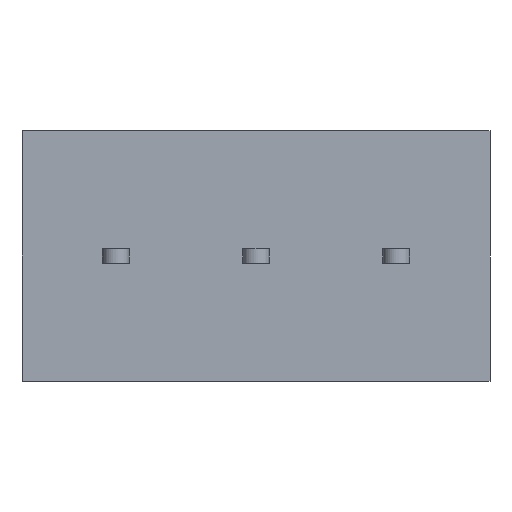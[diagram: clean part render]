
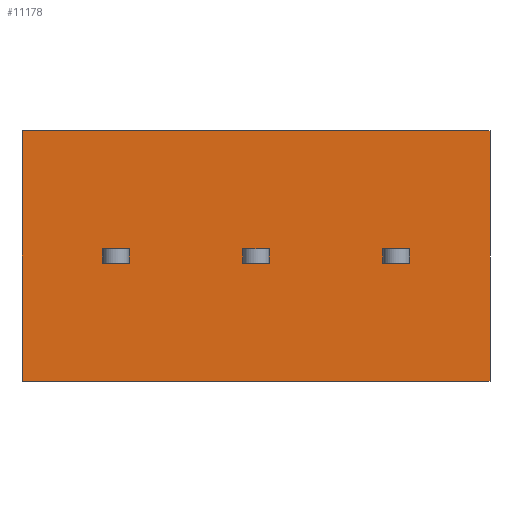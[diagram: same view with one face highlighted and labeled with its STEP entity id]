
A CAD part, front view. The second image highlights one B-rep face of the part: STEP entity #11178.
In plain terms, the highlighted planar face has unit normal (0, -1, 0).
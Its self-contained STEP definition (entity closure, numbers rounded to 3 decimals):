
#747=VERTEX_POINT('',#14812);
#748=VERTEX_POINT('',#14813);
#751=VERTEX_POINT('',#14821);
#779=VERTEX_POINT('',#14892);
#903=VERTEX_POINT('',#15305);
#904=VERTEX_POINT('',#15306);
#916=VERTEX_POINT('',#15334);
#917=VERTEX_POINT('',#15335);
#918=VERTEX_POINT('',#15337);
#919=VERTEX_POINT('',#15339);
#920=VERTEX_POINT('',#15342);
#921=VERTEX_POINT('',#15343);
#922=VERTEX_POINT('',#15345);
#923=VERTEX_POINT('',#15347);
#924=VERTEX_POINT('',#15350);
#925=VERTEX_POINT('',#15351);
#1906=VECTOR('',#12501,1.);
#1909=VECTOR('',#12507,1.);
#1935=VECTOR('',#12562,1.);
#1937=VECTOR('',#12565,1.);
#2055=VECTOR('',#12890,1.);
#2070=VECTOR('',#12906,1.);
#2071=VECTOR('',#12907,1.);
#2072=VECTOR('',#12908,1.);
#2073=VECTOR('',#12909,1.);
#2074=VECTOR('',#12910,1.);
#2075=VECTOR('',#12911,1.);
#2076=VECTOR('',#12912,1.);
#2077=VECTOR('',#12913,1.);
#2078=VECTOR('',#12914,1.);
#2079=VECTOR('',#12915,1.);
#2080=VECTOR('',#12916,1.);
#3180=LINE('',#14811,#1906);
#3183=LINE('',#14820,#1909);
#3209=LINE('',#14891,#1935);
#3211=LINE('',#14895,#1937);
#3329=LINE('',#15304,#2055);
#3344=LINE('',#15333,#2070);
#3345=LINE('',#15336,#2071);
#3346=LINE('',#15338,#2072);
#3347=LINE('',#15340,#2073);
#3348=LINE('',#15341,#2074);
#3349=LINE('',#15344,#2075);
#3350=LINE('',#15346,#2076);
#3351=LINE('',#15348,#2077);
#3352=LINE('',#15349,#2078);
#3353=LINE('',#15352,#2079);
#3354=LINE('',#15353,#2080);
#4454=EDGE_CURVE('',#747,#748,#3180,.T.);
#4458=EDGE_CURVE('',#748,#751,#3183,.T.);
#4493=EDGE_CURVE('',#779,#747,#3209,.T.);
#4495=EDGE_CURVE('',#751,#779,#3211,.T.);
#4679=EDGE_CURVE('',#903,#904,#3329,.T.);
#4694=EDGE_CURVE('',#916,#917,#3344,.T.);
#4695=EDGE_CURVE('',#917,#918,#3345,.T.);
#4696=EDGE_CURVE('',#918,#919,#3346,.T.);
#4697=EDGE_CURVE('',#919,#916,#3347,.T.);
#4698=EDGE_CURVE('',#920,#921,#3348,.T.);
#4699=EDGE_CURVE('',#922,#920,#3349,.T.);
#4700=EDGE_CURVE('',#923,#922,#3350,.T.);
#4701=EDGE_CURVE('',#921,#923,#3351,.T.);
#4702=EDGE_CURVE('',#924,#925,#3352,.T.);
#4703=EDGE_CURVE('',#925,#904,#3353,.T.);
#4704=EDGE_CURVE('',#924,#903,#3354,.T.);
#6609=ORIENTED_EDGE('',*,*,#4694,.T.);
#6610=ORIENTED_EDGE('',*,*,#4695,.T.);
#6611=ORIENTED_EDGE('',*,*,#4696,.T.);
#6612=ORIENTED_EDGE('',*,*,#4697,.T.);
#6613=ORIENTED_EDGE('',*,*,#4454,.T.);
#6614=ORIENTED_EDGE('',*,*,#4458,.T.);
#6615=ORIENTED_EDGE('',*,*,#4495,.T.);
#6616=ORIENTED_EDGE('',*,*,#4493,.T.);
#6617=ORIENTED_EDGE('',*,*,#4698,.F.);
#6618=ORIENTED_EDGE('',*,*,#4699,.F.);
#6619=ORIENTED_EDGE('',*,*,#4700,.F.);
#6620=ORIENTED_EDGE('',*,*,#4701,.F.);
#6621=ORIENTED_EDGE('',*,*,#4702,.T.);
#6622=ORIENTED_EDGE('',*,*,#4703,.T.);
#6623=ORIENTED_EDGE('',*,*,#4679,.F.);
#6624=ORIENTED_EDGE('',*,*,#4704,.F.);
#9734=EDGE_LOOP('',(#6609,#6610,#6611,#6612));
#9735=EDGE_LOOP('',(#6613,#6614,#6615,#6616));
#9736=EDGE_LOOP('',(#6617,#6618,#6619,#6620));
#9737=EDGE_LOOP('',(#6621,#6622,#6623,#6624));
#10460=FACE_BOUND('',#9734,.T.);
#10461=FACE_BOUND('',#9735,.T.);
#10462=FACE_BOUND('',#9736,.T.);
#10463=FACE_BOUND('',#9737,.T.);
#11178=ADVANCED_FACE('',(#10460,#10461,#10462,#10463),#19408,.T.);
#11907=AXIS2_PLACEMENT_3D('',#15332,#12905,$);
#12501=DIRECTION('',(1.,0.,0.));
#12507=DIRECTION('',(0.,0.,-1.));
#12562=DIRECTION('',(0.,0.,1.));
#12565=DIRECTION('',(-1.,0.,0.));
#12890=DIRECTION('',(1.,0.,0.));
#12905=DIRECTION('',(0.,-1.,0.));
#12906=DIRECTION('',(1.,0.,0.));
#12907=DIRECTION('',(0.,0.,-1.));
#12908=DIRECTION('',(-1.,0.,0.));
#12909=DIRECTION('',(0.,0.,1.));
#12910=DIRECTION('',(-1.,0.,0.));
#12911=DIRECTION('',(0.,0.,1.));
#12912=DIRECTION('',(1.,0.,0.));
#12913=DIRECTION('',(0.,0.,-1.));
#12914=DIRECTION('',(1.,0.,0.));
#12915=DIRECTION('',(0.,0.,1.));
#12916=DIRECTION('',(0.,0.,1.));
#14811=CARTESIAN_POINT('',(7.025,0.,0.5));
#14812=CARTESIAN_POINT('',(14.05,0.,0.5));
#14813=CARTESIAN_POINT('',(15.85,0.,0.5));
#14820=CARTESIAN_POINT('',(15.85,0.,1.75));
#14821=CARTESIAN_POINT('',(15.85,0.,-0.5));
#14891=CARTESIAN_POINT('',(14.05,0.,1.75));
#14892=CARTESIAN_POINT('',(14.05,0.,-0.5));
#14895=CARTESIAN_POINT('',(7.025,0.,-0.5));
#15304=CARTESIAN_POINT('',(-0.9,0.,8.5));
#15305=CARTESIAN_POINT('',(-0.9,0.,8.5));
#15306=CARTESIAN_POINT('',(30.8,0.,8.5));
#15332=CARTESIAN_POINT('',(-0.9,0.,0.));
#15333=CARTESIAN_POINT('',(11.775,0.,0.5));
#15334=CARTESIAN_POINT('',(23.55,0.,0.5));
#15335=CARTESIAN_POINT('',(25.35,0.,0.5));
#15336=CARTESIAN_POINT('',(25.35,0.,1.75));
#15337=CARTESIAN_POINT('',(25.35,0.,-0.5));
#15338=CARTESIAN_POINT('',(11.775,0.,-0.5));
#15339=CARTESIAN_POINT('',(23.55,0.,-0.5));
#15340=CARTESIAN_POINT('',(23.55,0.,1.75));
#15341=CARTESIAN_POINT('',(3.425,0.,0.5));
#15342=CARTESIAN_POINT('',(6.35,0.,0.5));
#15343=CARTESIAN_POINT('',(4.55,0.,0.5));
#15344=CARTESIAN_POINT('',(6.35,0.,1.75));
#15345=CARTESIAN_POINT('',(6.35,0.,-0.5));
#15346=CARTESIAN_POINT('',(3.425,0.,-0.5));
#15347=CARTESIAN_POINT('',(4.55,0.,-0.5));
#15348=CARTESIAN_POINT('',(4.55,0.,1.75));
#15349=CARTESIAN_POINT('',(-0.9,0.,-8.5));
#15350=CARTESIAN_POINT('',(-0.9,0.,-8.5));
#15351=CARTESIAN_POINT('',(30.8,0.,-8.5));
#15352=CARTESIAN_POINT('',(30.8,0.,-8.5));
#15353=CARTESIAN_POINT('',(-0.9,0.,-8.5));
#19408=PLANE('',#11907);
